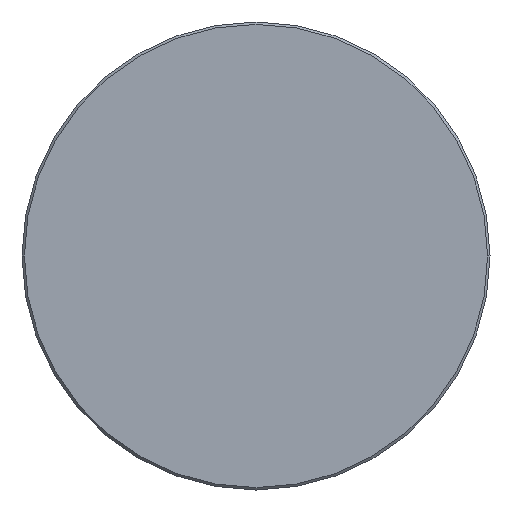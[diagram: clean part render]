
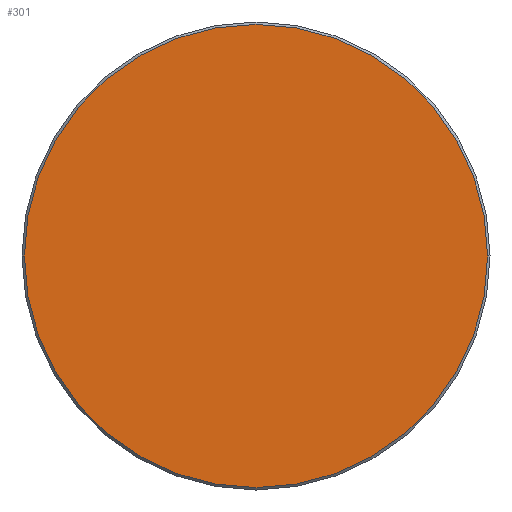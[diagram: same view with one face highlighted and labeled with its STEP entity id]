
A CAD part, left-side view. The second image highlights one B-rep face of the part: STEP entity #301.
In plain terms, the highlighted planar face has unit normal (-1, 0, 0).
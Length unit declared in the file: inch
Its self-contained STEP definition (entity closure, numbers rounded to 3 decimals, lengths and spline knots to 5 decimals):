
#1 = AXIS2_PLACEMENT_3D ( 'NONE', #369, #75, #278 ) ;
#8 = AXIS2_PLACEMENT_3D ( 'NONE', #342, #164, #371 ) ;
#33 = FACE_OUTER_BOUND ( 'NONE', #298, .T. ) ;
#56 = DIRECTION ( 'NONE',  ( -1., 0., 0. ) ) ;
#60 = EDGE_CURVE ( 'NONE', #67, #129, #223, .T. ) ;
#67 = VERTEX_POINT ( 'NONE', #318 ) ;
#75 = DIRECTION ( 'NONE',  ( -1., 0., 0. ) ) ;
#76 = ORIENTED_EDGE ( 'NONE', *, *, #60, .T. ) ;
#86 = CIRCLE ( 'NONE', #8, 0.38662 ) ;
#129 = VERTEX_POINT ( 'NONE', #234 ) ;
#131 = PLANE ( 'NONE',  #1 ) ;
#164 = DIRECTION ( 'NONE',  ( -1., 0., 0. ) ) ;
#168 = DIRECTION ( 'NONE',  ( 0., -1., 0. ) ) ;
#170 = CARTESIAN_POINT ( 'NONE',  ( 0., 0., 0. ) ) ;
#223 = CIRCLE ( 'NONE', #258, 0.38662 ) ;
#226 = ORIENTED_EDGE ( 'NONE', *, *, #348, .T. ) ;
#234 = CARTESIAN_POINT ( 'NONE',  ( 0., -0.38662, 0. ) ) ;
#258 = AXIS2_PLACEMENT_3D ( 'NONE', #170, #56, #168 ) ;
#278 = DIRECTION ( 'NONE',  ( 0., -1., 0. ) ) ;
#298 = EDGE_LOOP ( 'NONE', ( #76, #226 ) ) ;
#301 = ADVANCED_FACE ( 'NONE', ( #33 ), #131, .T. ) ;
#318 = CARTESIAN_POINT ( 'NONE',  ( 0., 0.38662, 0. ) ) ;
#342 = CARTESIAN_POINT ( 'NONE',  ( 0., 0., 0. ) ) ;
#348 = EDGE_CURVE ( 'NONE', #129, #67, #86, .T. ) ;
#369 = CARTESIAN_POINT ( 'NONE',  ( 0., 0., 0. ) ) ;
#371 = DIRECTION ( 'NONE',  ( 0., -1., 0. ) ) ;
